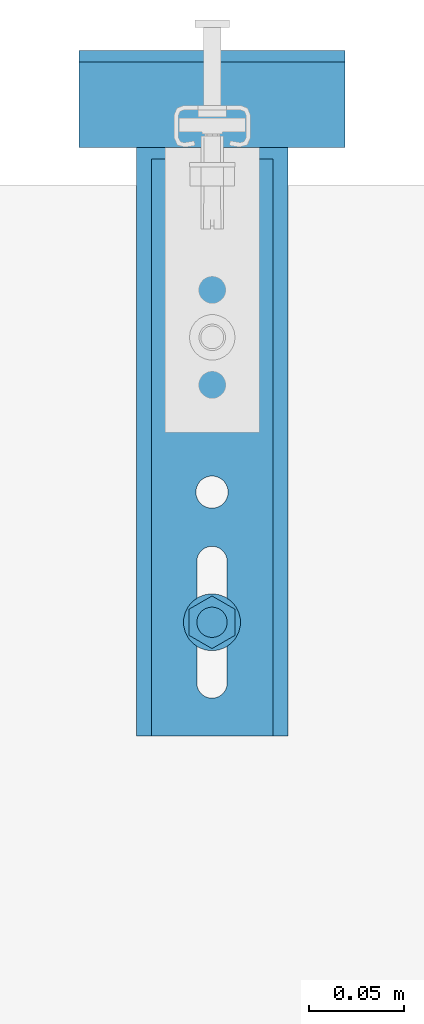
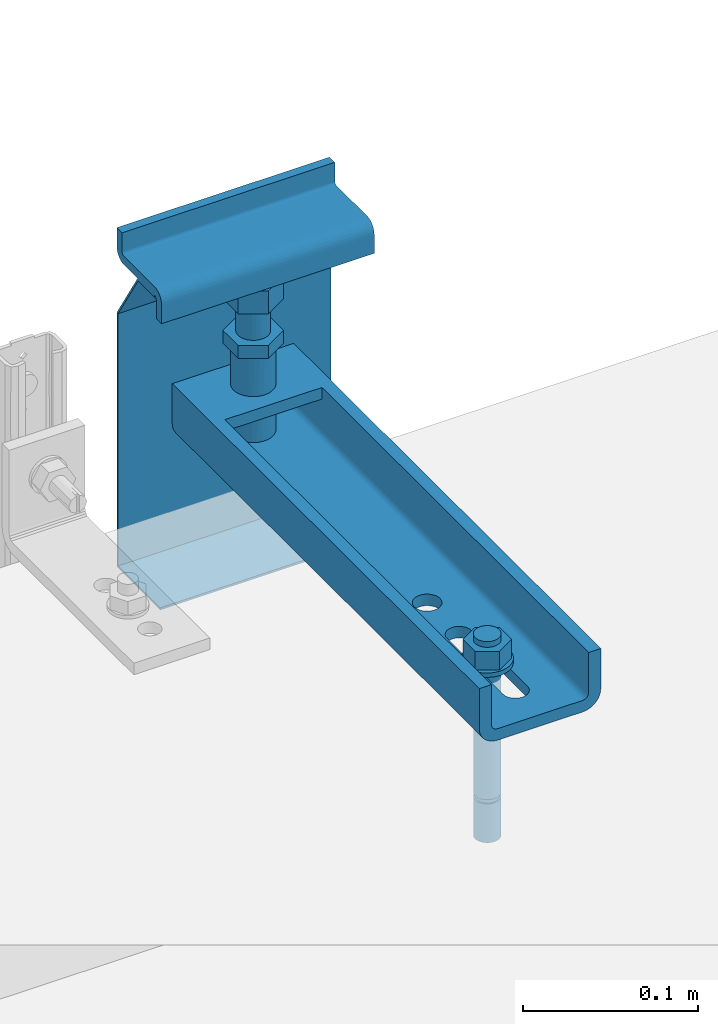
# One storey, part 2 of 7: 3 assemblies, 4 openings.
"""IFC2X3 building model written with IfcOpenShell, lengths in metres."""

import ifcopenshell
import ifcopenshell.guid

model = None  # the IFC model being written
_history = None  # IfcOwnerHistory: only IFC2X3 demands one
_inside = {}  # id of a spatial element -> (the spatial element, [elements in it])
_under = {}  # id of a project, library or spatial element -> (it, [spatial elements below it])
_declared = {}  # id of a project -> (the project, [libraries it declares])
_typed = {}  # id of a type object -> (the type object, [elements of that type])
_made_of = {}  # id of a material, layer set ... -> (it, [elements and type objects made of it])


def new_model(schema):
    """Start an empty IFC model of exactly this schema.

    Asked for "IFC4X3", IfcOpenShell would pick the latest addendum, in which some entities
    have other attributes; the version numbers below select the first issue.
    IFC2X3 requires an IfcOwnerHistory on every rooted entity: one is made here for all.
    """
    global model, _history
    if schema == "IFC4X3":
        model = ifcopenshell.file(schema_version=(4, 3, 0, 0))
    else:
        model = ifcopenshell.file(schema=schema)
    _inside.clear()
    _under.clear()
    _declared.clear()
    _typed.clear()
    _made_of.clear()
    _history = None
    if model.schema == "IFC2X3":
        org = make("IfcOrganization", Name="unknown")
        user = make(
            "IfcPersonAndOrganization",
            ThePerson=make("IfcPerson", FamilyName="unknown"),
            TheOrganization=org,
        )
        app = make(
            "IfcApplication",
            ApplicationDeveloper=org,
            Version="unknown",
            ApplicationFullName="unknown",
            ApplicationIdentifier="unknown",
        )
        _history = make(
            "IfcOwnerHistory",
            OwningUser=user,
            OwningApplication=app,
            ChangeAction="ADDED",
            CreationDate=0,
        )
    return model


def make(cls, **values):
    """One entity of the class cls with the attributes given. An attribute that is None is left unset."""
    return model.create_entity(
        cls, **{name: value for name, value in values.items() if value is not None}
    )


def entity(cls, *values):
    """Any entity or typed value of the class cls, its attributes in the order of the schema. None: left unset."""
    e = model.create_entity(cls)
    for i, value in enumerate(values):
        if value is not None:
            e[i] = value
    return e


def rooted(cls, **values):
    """An entity with a GlobalId (a new one), such as an element, a storey or a relation."""
    return make(cls, GlobalId=ifcopenshell.guid.new(), OwnerHistory=_history, **values)


def si_unit(unit_type, name, prefix=None):
    """IfcSIUnit, for example si_unit("LENGTHUNIT", "METRE", prefix="MILLI")."""
    return make("IfcSIUnit", UnitType=unit_type, Prefix=prefix, Name=name)


def converted_unit(unit_type, name, factor, base, dimensions=None, offset=None):
    """IfcConversionBasedUnit, such as the inch: factor (a typed value) times the base unit."""
    return make(
        "IfcConversionBasedUnit"
        if offset is None
        else "IfcConversionBasedUnitWithOffset",
        ConversionOffset=offset,
        Dimensions=None
        if dimensions is None
        else entity("IfcDimensionalExponents", *dimensions),
        UnitType=unit_type,
        Name=name,
        ConversionFactor=make(
            "IfcMeasureWithUnit", ValueComponent=factor, UnitComponent=base
        ),
    )


def derived_unit(unit_type, elements):
    """IfcDerivedUnit: a product of units, each with its exponent."""
    return make(
        "IfcDerivedUnit",
        Elements=[
            make("IfcDerivedUnitElement", Unit=unit, Exponent=power)
            for unit, power in elements
        ],
        UnitType=unit_type,
    )


def assignment(units):
    """IfcUnitAssignment: the units of a project."""
    return None if units is None else make("IfcUnitAssignment", Units=units)


def point(xyz):
    """IfcCartesianPoint."""
    return None if xyz is None else make("IfcCartesianPoint", Coordinates=xyz)


def direction(xyz):
    """IfcDirection."""
    return None if xyz is None else make("IfcDirection", DirectionRatios=xyz)


def frame(location, z_axis=None, x_axis=None):
    """IfcAxis2Placement3D, a coordinate frame: its origin and axes. An axis left out is left unset."""
    return make(
        "IfcAxis2Placement3D",
        Location=point(location),
        Axis=direction(z_axis),
        RefDirection=direction(x_axis),
    )


def frame_2d(location, x_axis=None):
    """IfcAxis2Placement2D, a coordinate frame in the plane: its origin and x axis."""
    return make(
        "IfcAxis2Placement2D", Location=point(location), RefDirection=direction(x_axis)
    )


def origin():
    """The frame at (0, 0, 0) with its axes left unset."""
    return frame((0.0, 0.0, 0.0))


def place(relative_to, where):
    """IfcLocalPlacement: puts the frame where relative to a parent placement (None: the world)."""
    return make(
        "IfcLocalPlacement", PlacementRelTo=relative_to, RelativePlacement=where
    )


def context(
    kind, dimensions, precision=None, world=None, true_north=None, identifier=None
):
    """IfcGeometricRepresentationContext, for example the 3D "Model" context."""
    return make(
        "IfcGeometricRepresentationContext",
        ContextIdentifier=identifier,
        ContextType=kind,
        CoordinateSpaceDimension=dimensions,
        Precision=precision,
        WorldCoordinateSystem=world,
        TrueNorth=true_north,
    )


def subcontext(parent, identifier, kind, view, scale=None):
    """IfcGeometricRepresentationSubContext, for example "Body" below "Model"."""
    return make(
        "IfcGeometricRepresentationSubContext",
        ContextIdentifier=identifier,
        ContextType=kind,
        ParentContext=parent,
        TargetScale=scale,
        TargetView=view,
    )


def project(units=None, contexts=None):
    """IfcProject with its units and contexts."""
    return rooted(
        "IfcProject",
        Name="project",
        RepresentationContexts=contexts,
        UnitsInContext=assignment(units),
    )


def spatial(cls, under=None, at=None, **own):
    """A site, building, storey or space (cls), placed at a placement, below another one or the project."""
    s = rooted(cls, ObjectPlacement=at, **own)
    if under is not None:
        _under.setdefault(under.id(), (under, []))[1].append(s)
    return s


def polyline(points):
    """IfcPolyline through the points."""
    return make("IfcPolyline", Points=[point(p) for p in points])


def circle_curve(where, radius):
    """IfcCircle in the frame where."""
    return make("IfcCircle", Position=where, Radius=radius)


def parameter(value):
    """IfcParameterValue: where a trimmed curve begins or ends, as a parameter of its basis curve."""
    return model.create_entity("IfcParameterValue", value)


def trimmed(basis, trim1, trim2, sense, master):
    """IfcTrimmedCurve: the piece of a basis curve between two trims."""
    return make(
        "IfcTrimmedCurve",
        BasisCurve=basis,
        Trim1=trim1,
        Trim2=trim2,
        SenseAgreement=sense,
        MasterRepresentation=master,
    )


def segment(curve, same_sense, transition):
    """IfcCompositeCurveSegment."""
    return make(
        "IfcCompositeCurveSegment",
        Transition=transition,
        SameSense=same_sense,
        ParentCurve=curve,
    )


def composite_curve(segments, self_intersect=None):
    """IfcCompositeCurve: segments joined end to end."""
    return make("IfcCompositeCurve", Segments=segments, SelfIntersect=self_intersect)


def profile(cls, at=None, kind="AREA", **sizes):
    """A parametric profile (cls). Its sizes go by their IFC names, for example OverallWidth=200.0."""
    return make(cls, ProfileType=kind, Position=at, **sizes)


def circle(**sizes):
    """IfcCircleProfileDef."""
    return profile("IfcCircleProfileDef", **sizes)


def hollow_circle(**sizes):
    """IfcCircleHollowProfileDef."""
    return profile("IfcCircleHollowProfileDef", **sizes)


def outline(outer, holes=None, kind="AREA"):
    """IfcArbitraryClosedProfileDef: a profile drawn as a closed curve; with holes, ...WithVoids."""
    if holes is None:
        return make("IfcArbitraryClosedProfileDef", ProfileType=kind, OuterCurve=outer)
    return make(
        "IfcArbitraryProfileDefWithVoids",
        ProfileType=kind,
        OuterCurve=outer,
        InnerCurves=holes,
    )


def extrude(swept, where, along, depth):
    """IfcExtrudedAreaSolid: the profile swept, set in the frame where, extruded along a direction by depth."""
    return make(
        "IfcExtrudedAreaSolid",
        SweptArea=swept,
        Position=where,
        ExtrudedDirection=direction(along),
        Depth=depth,
    )


def shape(context_of_items, identifier, shape_type, items):
    """IfcShapeRepresentation: the items that make up one representation, for example the "Body"."""
    return make(
        "IfcShapeRepresentation",
        ContextOfItems=context_of_items,
        RepresentationIdentifier=identifier,
        RepresentationType=shape_type,
        Items=items,
    )


def source(mapping_origin, context_of_items, identifier, shape_type, items):
    """IfcRepresentationMap: a shape defined once, which mapped items show again and again."""
    return make(
        "IfcRepresentationMap",
        MappingOrigin=mapping_origin,
        MappedRepresentation=shape(context_of_items, identifier, shape_type, items),
    )


def transform(
    local_origin,
    x_axis=None,
    y_axis=None,
    z_axis=None,
    scale=None,
    scale2=None,
    scale3=None,
    uniform=True,
):
    """IfcCartesianTransformationOperator3D, or its non-uniform kind. x_axis, y_axis, z_axis: its Axis1, 2, 3."""
    if uniform:
        return make(
            "IfcCartesianTransformationOperator3D",
            Axis1=direction(x_axis),
            Axis2=direction(y_axis),
            LocalOrigin=point(local_origin),
            Scale=scale,
            Axis3=direction(z_axis),
        )
    return make(
        "IfcCartesianTransformationOperator3DnonUniform",
        Axis1=direction(x_axis),
        Axis2=direction(y_axis),
        LocalOrigin=point(local_origin),
        Scale=scale,
        Axis3=direction(z_axis),
        Scale2=scale2,
        Scale3=scale3,
    )


def mapped(mapping_source, mapping_target):
    """IfcMappedItem: shows the shape of a source again, moved by a transform."""
    return make(
        "IfcMappedItem", MappingSource=mapping_source, MappingTarget=mapping_target
    )


def material(Name=None, Category=None):
    """IfcMaterial."""
    return make("IfcMaterial", Name=Name, Category=Category)


def made_of(thing, what):
    """Note that an element or type object is made of a material, layer set ...; save() writes the relation."""
    if what is not None:
        _made_of.setdefault(what.id(), (what, []))[1].append(thing)
    return thing


def type_object(cls, material=None, **own):
    """A type object (cls), such as IfcWallType, which elements share."""
    return made_of(rooted(cls, **own), material)


def type_shapes(of_type, sources):
    """Give a type object the sources (RepresentationMaps) that its elements show as mapped items."""
    of_type.RepresentationMaps = sources


def element(
    cls,
    number,
    at=None,
    inside=None,
    cuts=None,
    type_object=None,
    material=None,
    context=None,
    identifier="Body",
    shape_type=None,
    held_by="IfcProductDefinitionShape",
    body=None,
    shapes=None,
    **own,
):
    """One element of the class cls, such as IfcWall. Its Tag is "e" and its number.

    at: its placement. inside: the storey or other place that contains it. cuts: it is an
    opening in that element (IfcRelVoidsElement). A single representation is given by context,
    identifier, shape_type and body (its items); several are given by shapes. held_by: the class
    of the entity that holds the representations. save() writes the other relations.
    """
    e = rooted(cls, Tag="e%d" % number, ObjectPlacement=at, **own)
    if body is not None:
        shapes = [shape(context, identifier, shape_type, body)]
    if shapes is not None:
        e.Representation = make(held_by, Representations=shapes)
    if inside is not None:
        _inside.setdefault(inside.id(), (inside, []))[1].append(e)
    if cuts is not None:
        rooted(
            "IfcRelVoidsElement", RelatingBuildingElement=cuts, RelatedOpeningElement=e
        )
    if type_object is not None:
        _typed.setdefault(type_object.id(), (type_object, []))[1].append(e)
    return made_of(e, material)


def aggregate(whole, parts):
    """IfcRelAggregates: a whole, such as a stair, and the parts it consists of."""
    return rooted("IfcRelAggregates", RelatingObject=whole, RelatedObjects=parts)


def save(model, path):
    """Write the relations noted so far, then the file.

    IfcRelAggregates (storeys below a building ...), IfcRelContainedInSpatialStructure (elements
    in a storey), IfcRelDefinesByType, IfcRelAssociatesMaterial and IfcRelDeclares: one each for
    every whole, place, type object, material and project.
    """
    for whole, parts in _under.values():
        aggregate(whole, parts)
    for where, things in _inside.values():
        rooted(
            "IfcRelContainedInSpatialStructure",
            RelatedElements=things,
            RelatingStructure=where,
        )
    for kind, things in _typed.values():
        rooted("IfcRelDefinesByType", RelatedObjects=things, RelatingType=kind)
    for what, things in _made_of.values():
        rooted("IfcRelAssociatesMaterial", RelatedObjects=things, RelatingMaterial=what)
    for by, libraries in _declared.values():
        rooted("IfcRelDeclares", RelatingContext=by, RelatedDefinitions=libraries)
    model.write(path)


model = new_model("IFC2X3")

# Units and contexts
model_context = context("Model", 3, precision=1e-05, world=origin(), true_north=direction((6.123031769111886e-17, 1.0)))
body_context = subcontext(model_context, "Body", "Model", "MODEL_VIEW")
ifc_project = project(units=[si_unit("LENGTHUNIT", "METRE"), si_unit("AREAUNIT", "SQUARE_METRE"), converted_unit("PLANEANGLEUNIT", "DEGREE", entity("IfcPlaneAngleMeasure", 0.017453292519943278), si_unit("PLANEANGLEUNIT", "RADIAN"), dimensions=[0, 0, 0, 0, 0, 0, 0]), si_unit("VOLUMEUNIT", "CUBIC_METRE"), derived_unit("THERMALTRANSMITTANCEUNIT", [(si_unit("MASSUNIT", "GRAM", prefix="KILO"), 1), (si_unit("THERMODYNAMICTEMPERATUREUNIT", "KELVIN"), -1), (si_unit("TIMEUNIT", "SECOND"), -3)]), derived_unit("USERDEFINED", [(si_unit("MASSUNIT", "GRAM", prefix="KILO"), 1), (si_unit("THERMODYNAMICTEMPERATUREUNIT", "KELVIN"), -1), (si_unit("TIMEUNIT", "SECOND"), -2)]), derived_unit("THERMALRESISTANCEUNIT", [(si_unit("MASSUNIT", "GRAM", prefix="KILO"), -1), (si_unit("TIMEUNIT", "SECOND"), 3), (si_unit("THERMODYNAMICTEMPERATUREUNIT", "KELVIN"), 1)]), derived_unit("MASSDENSITYUNIT", [(si_unit("MASSUNIT", "GRAM", prefix="KILO"), 1), (si_unit("LENGTHUNIT", "METRE"), -3)]), derived_unit("VAPORPERMEABILITYUNIT", [(si_unit("LENGTHUNIT", "METRE"), -1), (si_unit("TIMEUNIT", "SECOND"), 1)]), derived_unit("USERDEFINED", [(si_unit("MASSUNIT", "GRAM", prefix="KILO"), 1), (si_unit("TIMEUNIT", "SECOND"), -3), (si_unit("LENGTHUNIT", "METRE"), 3), (si_unit("ELECTRICCURRENTUNIT", "AMPERE"), -2)]), si_unit("PRESSUREUNIT", "PASCAL")], contexts=[model_context])

# Site, building, storey
site_placement = place(None, origin())
site = spatial("IfcSite", under=ifc_project, at=site_placement, Name="Default", CompositionType="ELEMENT")
building_placement = place(site_placement, origin())
building = spatial("IfcBuilding", under=site, at=building_placement, CompositionType="ELEMENT")
storey_placement = place(building_placement, origin())
storey = spatial("IfcBuildingStorey", under=building, at=storey_placement, Name="L0", CompositionType="ELEMENT", Elevation=0.0)

# Assembly, openings
ifc_material = material(Name="REC_Acero, S 275JR (Zincado)")
type_product_1 = type_object("IfcTypeProduct", Name="REC-MF45T:MF45T", material=ifc_material)
shared_shape_1 = source(origin(), body_context, "Body", "SweptSolid", [
    extrude(outline(polyline([(-0.00866025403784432, -0.014999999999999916), (0.0086602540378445, -0.014999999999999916), (0.01732050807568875, 0.0), (0.008660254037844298, 0.014999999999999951), (-0.0086602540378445, 0.01499999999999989), (-0.017320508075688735, 0.0), (-0.00866025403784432, -0.014999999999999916)]), holes=[composite_curve([segment(trimmed(circle_curve(frame_2d((0.0, 0.0), x_axis=(-0.8660254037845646, 0.499999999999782)), 0.009999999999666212), [parameter(3.053332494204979e-13)], [parameter(180.0)], True, "PARAMETER"), False, "CONTINUOUS"), segment(trimmed(circle_curve(frame_2d((0.0, 0.0), x_axis=(-0.8660254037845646, 0.499999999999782)), 0.009999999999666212), [parameter(179.99999999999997)], [parameter(0.0)], True, "PARAMETER"), False, "CONTINUOUS")], self_intersect=False)]), frame((0.00013098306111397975, 0.06808023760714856, 0.022999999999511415), z_axis=(0.0, 1.0, 0.0), x_axis=(-0.8660254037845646, 0.0, 0.49999999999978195)), (0.0, 0.0, 1.0), 0.008959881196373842),
    extrude(hollow_circle(Radius=0.013, WallThickness=0.003000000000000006, at=frame_2d((-1.881047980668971e-18, 8.810727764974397e-17), x_axis=(1.0, 0.0))), frame((0.00013098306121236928, 0.0, 0.022999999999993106), z_axis=(0.0, 1.0, 0.0), x_axis=(-0.46114690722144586, 0.0, -0.887323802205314)), (0.0, 0.0, 1.0), 0.06808023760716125),
    extrude(outline(polyline([(-0.022999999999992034, -0.03200000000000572), (0.022999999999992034, -0.03200000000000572), (0.022999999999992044, 0.03200000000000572), (-0.022999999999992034, 0.03200000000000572), (-0.022999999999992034, -0.03200000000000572)]), holes=[composite_curve([segment(trimmed(circle_curve(frame_2d((0.0, 0.0), x_axis=(0.0, -1.0)), 0.012999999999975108), [parameter(3.053332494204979e-13)], [parameter(180.0)], True, "PARAMETER"), False, "CONTINUOUS"), segment(trimmed(circle_curve(frame_2d((0.0, 0.0), x_axis=(0.0, -1.0)), 0.012999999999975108), [parameter(179.99999999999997)], [parameter(0.0)], True, "PARAMETER"), False, "CONTINUOUS")], self_intersect=False)]), frame((0.00013098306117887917, 0.03199999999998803, 0.022999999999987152), z_axis=(0.0, 1.0, 0.0), x_axis=(0.0, 0.0, -1.0)), (0.0, 0.0, 1.0), 0.007999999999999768),
    extrude(outline(composite_curve([segment(polyline([(-0.006666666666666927, -0.040000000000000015), (0.02133333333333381, -0.04000000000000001)]), True, "CONTINUOUS"), segment(polyline([(0.02133333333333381, -0.04000000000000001), (0.02133333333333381, -0.03200000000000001)]), True, "CONTINUOUS"), segment(polyline([(0.02133333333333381, -0.03200000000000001), (-0.006666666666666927, -0.032000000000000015)]), True, "CONTINUOUS"), segment(trimmed(circle_curve(frame_2d((-0.006666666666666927, -0.028000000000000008), x_axis=(0.0, 1.0)), 0.004), [parameter(90.00000000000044)], [parameter(180.0000000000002)], True, "PARAMETER"), False, "CONTINUOUS"), segment(polyline([(-0.010666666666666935, -0.02800000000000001), (-0.010666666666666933, 0.028000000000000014)]), True, "CONTINUOUS"), segment(trimmed(circle_curve(frame_2d((-0.006666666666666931, 0.028), x_axis=(0.0, 1.0)), 0.004), [parameter(359.99999999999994)], [parameter(90.00000000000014)], True, "PARAMETER"), False, "CONTINUOUS"), segment(polyline([(-0.006666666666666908, 0.032), (0.02133333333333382, 0.032)]), True, "CONTINUOUS"), segment(polyline([(0.02133333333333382, 0.032), (0.02133333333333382, 0.03999999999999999)]), True, "CONTINUOUS"), segment(polyline([(0.02133333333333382, 0.03999999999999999), (-0.0066666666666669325, 0.04)]), True, "CONTINUOUS"), segment(trimmed(circle_curve(frame_2d((-0.006666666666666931, 0.028), x_axis=(0.0, 1.0)), 0.012), [parameter(359.9999999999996)], [parameter(89.99999999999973)], True, "PARAMETER"), True, "CONTINUOUS"), segment(polyline([(-0.018666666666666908, 0.02800000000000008), (-0.01866666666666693, -0.028000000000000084)]), True, "CONTINUOUS"), segment(trimmed(circle_curve(frame_2d((-0.006666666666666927, -0.028000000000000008), x_axis=(0.0, 1.0)), 0.012), [parameter(90.00000000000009)], [parameter(179.99999999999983)], True, "PARAMETER"), True, "CONTINUOUS")], self_intersect=False)), frame((0.00013098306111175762, 0.01866666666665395, 0.0), z_axis=(0.0, 0.0, 1.0), x_axis=(0.0, 1.0, 0.0)), (0.0, 0.0, 1.0), 0.35000000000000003),
    extrude(circle(Radius=0.009999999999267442, at=frame_2d((6.939761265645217e-19, 1.268984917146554e-17), x_axis=(1.0, 0.0))), frame((0.00013098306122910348, -0.02000000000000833, 0.022999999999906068), z_axis=(0.0, 1.0, 0.0), x_axis=(-1.0, 0.0, 0.0)), (0.0, 0.0, 1.0), 0.15000000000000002),
    extrude(outline(polyline([(-0.008660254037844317, -0.01499999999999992), (0.008660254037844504, -0.01499999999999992), (0.01732050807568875, 0.0), (0.008660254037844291, 0.014999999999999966), (-0.008660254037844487, 0.014999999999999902), (-0.01732050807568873, 0.0), (-0.008660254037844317, -0.01499999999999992)]), holes=[composite_curve([segment(trimmed(circle_curve(frame_2d((0.0, 0.0), x_axis=(-0.8660254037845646, 0.499999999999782)), 0.009999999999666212), [parameter(3.053332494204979e-13)], [parameter(180.0)], True, "PARAMETER"), False, "CONTINUOUS"), segment(trimmed(circle_curve(frame_2d((0.0, 0.0), x_axis=(-0.8660254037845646, 0.499999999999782)), 0.009999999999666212), [parameter(179.99999999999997)], [parameter(0.0)], True, "PARAMETER"), False, "CONTINUOUS")], self_intersect=False)]), frame((0.00013098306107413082, 0.09904011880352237, 0.022999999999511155), z_axis=(0.0, 1.0, 0.0), x_axis=(-0.8660254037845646, 0.0, 0.49999999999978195)), (0.0, 0.0, 1.0), 0.016),
])
type_shapes(type_product_1, [shared_shape_1])
assembly_1_placement = place(storey_placement, frame((5.487589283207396, 15.994530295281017, 4.011880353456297e-05), z_axis=(0.0, -1.0, 0.0), x_axis=(1.0, 0.0, 0.0)))
assembly_1 = element("IfcElementAssembly", 1, at=assembly_1_placement, inside=storey, type_object=type_product_1, material=ifc_material, Name="REC-MF45T:MF45T", ObjectType="REC-MF45T:MF45T", AssemblyPlace="NOTDEFINED", PredefinedType="NOTDEFINED", context=body_context, shape_type="MappedRepresentation", body=[
    mapped(shared_shape_1, transform((0.0, 0.0, 0.0), scale=1.0)),
])
opening_1_placement = place(storey_placement, frame((5.487589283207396, 15.994530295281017, 4.011880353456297e-05), z_axis=(0.0, 0.0, -1.0), x_axis=(1.0, 0.0, 0.0)))
element("IfcOpeningElement", 2, at=opening_1_placement, cuts=assembly_1, Name="REC-MF45T:MF45T:1", ObjectType="Opening", context=body_context, shape_type="SweptSolid", body=[
    extrude(outline(polyline([(-0.03199999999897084, -0.007999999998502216), (0.03199999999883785, -0.007999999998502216), (0.03366329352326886, -0.007825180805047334), (0.03525389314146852, -0.007308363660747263), (0.03670228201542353, -0.006472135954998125), (0.03794515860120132, -0.00535304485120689), (0.038928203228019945, -0.00400000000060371), (0.03960845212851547, -0.0024721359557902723), (0.03995617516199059, -0.0008362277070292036), (0.039956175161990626, 0.000836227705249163), (0.039608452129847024, 0.002472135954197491), (0.038928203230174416, 0.003999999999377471), (0.03794515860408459, 0.005353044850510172), (0.03670228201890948, 0.006472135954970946), (0.0352538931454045, 0.007308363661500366), (0.03366329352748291, 0.00782518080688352), (0.032000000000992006, 0.008000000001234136), (-0.03199999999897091, 0.008000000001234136), (-0.03366329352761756, 0.00782518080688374), (-0.03525389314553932, 0.007308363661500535), (-0.036702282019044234, 0.006472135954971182), (-0.0379451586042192, 0.005353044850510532), (-0.03892820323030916, 0.003999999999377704), (-0.03960845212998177, 0.002472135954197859), (-0.039956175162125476, 0.0008362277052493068), (-0.03995617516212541, -0.0008362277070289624), (-0.03960845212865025, -0.0024721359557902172), (-0.038928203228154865, -0.0040000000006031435), (-0.03794515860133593, -0.0053530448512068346), (-0.03670228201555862, -0.006472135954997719), (-0.03525389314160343, -0.007308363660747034), (-0.033663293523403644, -0.007825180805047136), (-0.03199999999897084, -0.007999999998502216)])), frame((0.0, 0.2899863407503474, -0.007999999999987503), z_axis=(0.0, 0.0, 1.0), x_axis=(0.0, -1.0, 0.0)), (0.0, 0.0, 1.0), 0.007999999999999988),
])
opening_2_placement = place(storey_placement, frame((5.487589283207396, 15.994530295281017, 4.011880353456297e-05), z_axis=(0.0, 0.0, -1.0), x_axis=(1.0, 0.0, 0.0)))
element("IfcOpeningElement", 3, at=opening_2_placement, cuts=assembly_1, Name="REC-MF45T:MF45T:2", ObjectType="Opening", context=body_context, shape_type="SweptSolid", body=[
    extrude(circle(Radius=0.008499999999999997, at=frame_2d((-2.7860451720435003e-19, -3.383959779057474e-17), x_axis=(1.0, 0.0))), frame((0.0, 0.22148634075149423, -0.007999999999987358), z_axis=(0.0, 0.0, 1.0), x_axis=(-1.0, 0.0, 0.0)), (0.0, 0.0, 1.0), 0.007999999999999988),
])
opening_3_placement = place(storey_placement, frame((5.487589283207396, 15.994530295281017, 4.011880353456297e-05), z_axis=(0.0, 0.0, -1.0), x_axis=(1.0, 0.0, 0.0)))
element("IfcOpeningElement", 4, at=opening_3_placement, cuts=assembly_1, Name="REC-MF45T:MF45T:3", ObjectType="Opening", context=body_context, shape_type="SweptSolid", body=[
    extrude(circle(Radius=0.012999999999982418, at=frame_2d((-6.444064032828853e-19, -7.613909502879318e-17), x_axis=(1.0, 0.0))), frame((0.00013098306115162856, 0.022999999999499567, -0.007999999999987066), z_axis=(0.0, 0.0, 1.0), x_axis=(-1.0, 0.0, 0.0)), (0.0, 0.0, 1.0), 0.007999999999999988),
])

# Assembly
type_product_2 = type_object("IfcTypeProduct", Name="REC-AEM16-140:AEM16-140", material=ifc_material)
shared_shape_2 = source(origin(), body_context, "Body", "SweptSolid", [
    extrude(outline(polyline([(-0.006928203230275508, -0.011999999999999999), (0.006928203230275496, -0.012), (0.013856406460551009, 0.0), (0.006928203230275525, 0.011999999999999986), (-0.006928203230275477, 0.01200000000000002), (-0.013856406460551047, 0.0), (-0.006928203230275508, -0.011999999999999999)]), holes=[composite_curve([segment(trimmed(circle_curve(frame_2d((0.0, 0.0), x_axis=(0.4999999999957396, 0.8660254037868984)), 0.008), [parameter(3.053332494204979e-13)], [parameter(180.0)], True, "PARAMETER"), False, "CONTINUOUS"), segment(trimmed(circle_curve(frame_2d((0.0, 0.0), x_axis=(0.4999999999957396, 0.8660254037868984)), 0.008), [parameter(179.99999999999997)], [parameter(0.0)], True, "PARAMETER"), False, "CONTINUOUS")], self_intersect=False)]), frame((0.0, 0.0, 0.0029999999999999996), z_axis=(0.0, 0.0, 1.0), x_axis=(0.4999999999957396, -0.8660254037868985, 0.0)), (0.0, 0.0, 1.0), 0.013000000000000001),
    extrude(hollow_circle(Radius=0.015, WallThickness=0.006499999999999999, at=frame_2d((1.062573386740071e-19, -2.4233168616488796e-17), x_axis=(1.0, 0.0))), origin(), (0.0, 0.0, 1.0), 0.003),
    extrude(circle(Radius=0.008, at=frame_2d((1.3218592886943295e-19, -1.2924356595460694e-17), x_axis=(1.0, 0.0))), frame((0.0, 0.0, -0.09)), (0.0, 0.0, 1.0), 0.11),
    extrude(circle(Radius=0.008, at=frame_2d((1.3218592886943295e-19, -1.2924356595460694e-17), x_axis=(1.0, 0.0))), frame((0.0, 0.0, -0.12)), (0.0, 0.0, 1.0), 0.026999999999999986),
    extrude(circle(Radius=0.007, at=frame_2d((1.3218592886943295e-19, -1.1308812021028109e-17), x_axis=(1.0, 0.0))), frame((0.0, 0.0, -0.09300000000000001)), (0.0, 0.0, 1.0), 0.0030000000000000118),
])
type_shapes(type_product_2, [shared_shape_2])
assembly_2_placement = place(storey_placement, frame((5.487589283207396, 15.704530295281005, 0.008040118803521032), z_axis=(0.0, 0.0, 1.0), x_axis=(0.0, 1.0, 0.0)))
element("IfcElementAssembly", 5, at=assembly_2_placement, inside=storey, type_object=type_product_2, material=ifc_material, Name="REC-AEM16-140:AEM16-140", ObjectType="REC-AEM16-140:AEM16-140", AssemblyPlace="NOTDEFINED", PredefinedType="NOTDEFINED", context=body_context, shape_type="MappedRepresentation", body=[
    mapped(shared_shape_2, transform((0.0, 0.0, 0.0), scale=1.0)),
])

# Assembly, opening
type_product_3 = type_object("IfcTypeProduct", Name="REC-CMFPR-2:CMFPR-2", material=ifc_material)
shared_shape_3 = source(origin(), body_context, "Body", "SweptSolid", [
    extrude(outline(composite_curve([segment(polyline([(-0.025499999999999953, -0.018000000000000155), (-0.01949999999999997, -0.018000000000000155)]), True, "CONTINUOUS"), segment(polyline([(-0.01949999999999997, -0.018000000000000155), (-0.01949999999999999, -0.004999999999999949)]), True, "CONTINUOUS"), segment(trimmed(circle_curve(frame_2d((-0.017499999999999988, -0.004999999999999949), x_axis=(1.0, 0.0)), 0.002), [parameter(89.99999999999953)], [parameter(180.00000000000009)], True, "PARAMETER"), False, "CONTINUOUS"), segment(polyline([(-0.017499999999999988, -0.003000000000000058), (0.017500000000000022, -0.0030000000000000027)]), True, "CONTINUOUS"), segment(trimmed(circle_curve(frame_2d((0.017499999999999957, 0.0050000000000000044), x_axis=(1.0, 0.0)), 0.008), [parameter(270.0000000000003)], [parameter(4.0711099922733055e-13)], True, "PARAMETER"), True, "CONTINUOUS"), segment(polyline([(0.02549999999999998, 0.0050000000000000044), (0.025499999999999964, 0.01800000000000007)]), True, "CONTINUOUS"), segment(polyline([(0.025499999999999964, 0.01800000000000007), (0.019499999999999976, 0.01800000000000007)]), True, "CONTINUOUS"), segment(polyline([(0.019499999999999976, 0.01800000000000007), (0.01949999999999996, 0.0050000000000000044)]), True, "CONTINUOUS"), segment(trimmed(circle_curve(frame_2d((0.017499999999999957, 0.0050000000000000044), x_axis=(1.0, 0.0)), 0.002), [parameter(270.0)], [parameter(359.9999999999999)], True, "PARAMETER"), False, "CONTINUOUS"), segment(polyline([(0.017499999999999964, 0.002999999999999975), (-0.01750000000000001, 0.003000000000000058)]), True, "CONTINUOUS"), segment(trimmed(circle_curve(frame_2d((-0.017499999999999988, -0.004999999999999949), x_axis=(1.0, 0.0)), 0.008), [parameter(90.00000000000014)], [parameter(180.00000000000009)], True, "PARAMETER"), True, "CONTINUOUS"), segment(polyline([(-0.02549999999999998, -0.004999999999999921), (-0.025499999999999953, -0.018000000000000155)]), True, "CONTINUOUS")], self_intersect=False)), frame((-0.21800001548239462, -0.0699999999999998, -0.02549999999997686), z_axis=(0.0, 1.0, 0.0), x_axis=(0.0, 0.0, 1.0)), (0.0, 0.0, 1.0), 0.13999999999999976),
    extrude(outline(polyline([(-0.12140000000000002, -0.023581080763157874), (0.055600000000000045, -0.023581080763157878), (0.0936, 4.0539236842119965e-05), (0.0936, 0.01941891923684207), (0.09210000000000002, 0.01941891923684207), (0.09210000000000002, 0.0006081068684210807), (0.05560000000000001, -0.02208108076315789), (-0.1199, -0.022081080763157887), (-0.1199, 0.02591891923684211), (-0.12140000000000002, 0.02591891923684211), (-0.12140000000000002, -0.023581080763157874)])), frame((-0.12139999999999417, -0.07000000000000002, -0.02741891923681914), z_axis=(0.0, 1.0, 0.0), x_axis=(-1.0, 0.0, 0.0)), (0.0, 0.0, 1.0), 0.13999999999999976),
])
type_shapes(type_product_3, [shared_shape_3])
assembly_3_placement = place(storey_placement, frame((5.4875892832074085, 15.954530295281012, -0.0834999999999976), z_axis=(0.0, -1.0, 0.0), x_axis=(0.0, 0.0, -1.0)))
assembly_3 = element("IfcElementAssembly", 6, at=assembly_3_placement, inside=storey, type_object=type_product_3, material=ifc_material, Name="REC-CMFPR-2:CMFPR-2", ObjectType="REC-CMFPR-2:CMFPR-2", AssemblyPlace="NOTDEFINED", PredefinedType="NOTDEFINED", context=body_context, shape_type="MappedRepresentation", body=[
    mapped(shared_shape_3, transform((0.0, 0.0, 0.0), scale=1.0)),
])
opening_4_placement = place(storey_placement, frame((5.4875892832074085, 15.954530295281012, -0.0834999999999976), z_axis=(-1.0, 0.0, 0.0), x_axis=(0.0, 1.0, 0.0)))
element("IfcOpeningElement", 7, at=opening_4_placement, cuts=assembly_3, Name="REC-CMFPR-2:CMFPR-2:1", ObjectType="Opening", context=body_context, shape_type="SweptSolid", body=[
    extrude(circle(Radius=0.00425, at=frame_2d((3.7569500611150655e-33, 2.1149748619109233e-18), x_axis=(1.0, 0.0))), frame((0.012249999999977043, -0.00149999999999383, -0.05974999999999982), z_axis=(0.0, 1.0, 0.0), x_axis=(0.0, 0.0, -1.0)), (0.0, 0.0, 1.0), 0.0015000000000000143),
])

save(model, "model.ifc")
